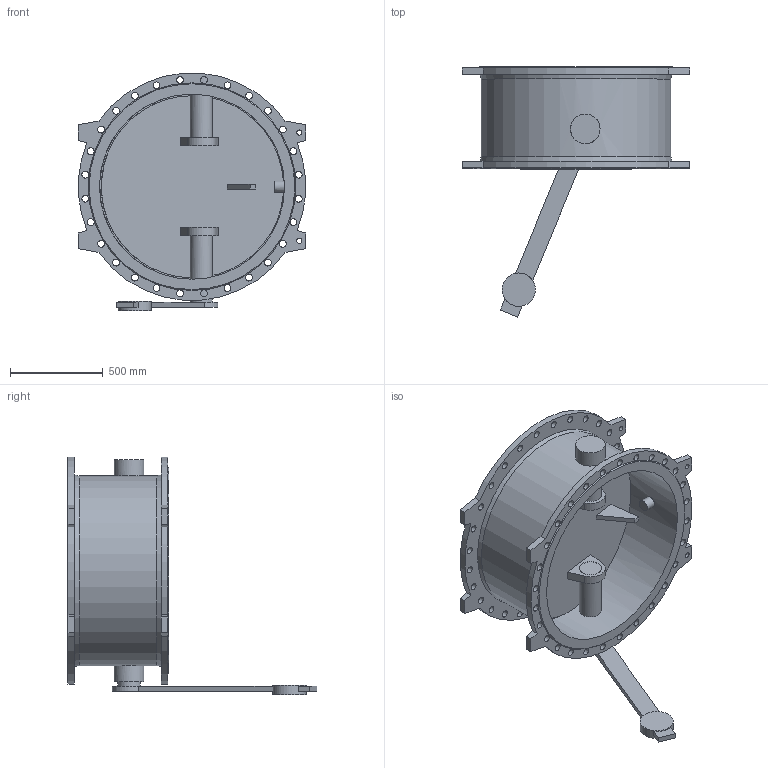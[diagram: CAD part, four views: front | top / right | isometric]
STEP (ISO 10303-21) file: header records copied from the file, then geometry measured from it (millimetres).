
FILE_DESCRIPTION(('STEP AP203'), '1');
FILE_NAME('Êëàïàí 015F.PV DN1000 PN10 ñ ïðîòèâîâåñîì', '', ('UNSPECIFIED'), ('UNSPECIFIED'), 'ASCON STEP Converter 1.6', 'ASCON Math Kernel', '');
FILE_SCHEMA(('CONFIG_CONTROL_DESIGN'));
Length unit declared in the file: millimetre
Bounding box: 1230 x 1350 x 1282.68 mm (x, y, z)
Volume: 74232748.4 mm3; surface area: 7732365.3 mm2
Topology: 1 solids, 1 shells, 152 faces, 402 edges, 267 vertices
Faces by surface type: cylinder 82, plane 63, cone 4, extrusion 2, bspline 1
Full cylindrical faces by diameter (mm): 28 x4, 37 x56, 60 x1, 120 x3, 122 x2, 160 x2, 180 x1, 1000 x1, 1026 x1
Entity records: 6885 total; most frequent: CARTESIAN_POINT 1793, DIRECTION 774, ORIENTED_EDGE 640, EDGE_LOOP 374, AXIS2_PLACEMENT_3D 321, EDGE_CURVE 320, VERTEX_POINT 266, FACE_BOUND 222
